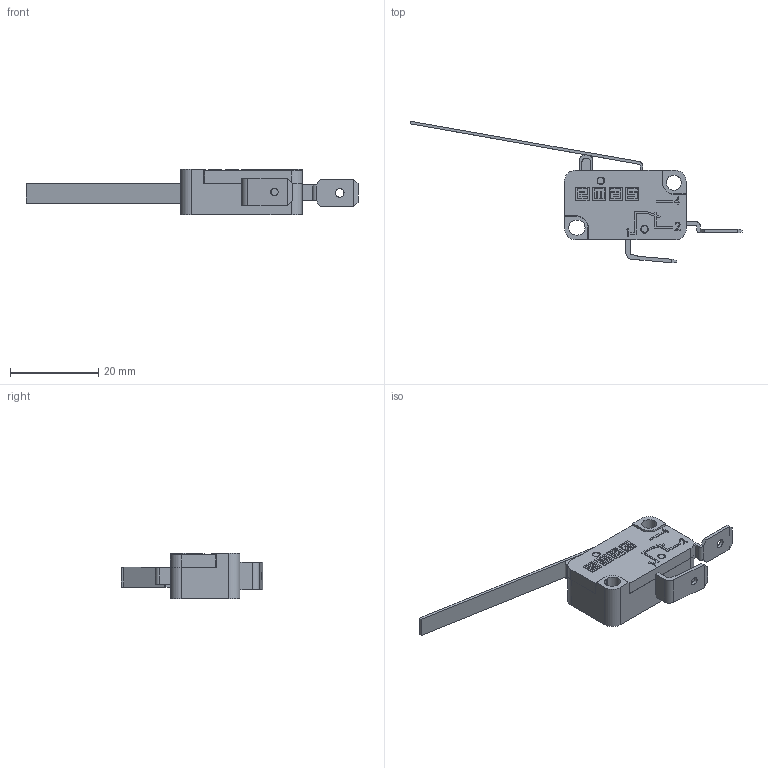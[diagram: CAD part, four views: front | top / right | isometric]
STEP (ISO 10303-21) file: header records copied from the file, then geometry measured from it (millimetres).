
FILE_DESCRIPTION((''),'2; 1');
FILE_NAME('','2026-03-27T16:19:19',(''),(''),'CST STEP Exporter V1.0','Unknown','');
FILE_SCHEMA(('CONFIG_CONTROL_DESIGN'));
Length unit declared in the file: metre
Assembly tree (9 placements, depth 2):
  (unnamed)
    (unnamed)
    (unnamed)
    (unnamed)
    (unnamed)
    (unnamed)
    (unnamed)
    (unnamed)
    (unnamed)
    (unnamed)
Bounding box: 75.44 x 32.15 x 10.4 mm (x, y, z)
Surface area: 7340.1 mm2 (no closed solid volume)
Topology: 0 solids, 9 shells, 255 faces, 971 edges, 730 vertices
Faces by surface type: plane 217, cylinder 32, extrusion 6
Full cylindrical faces by diameter (mm): 1.5 x2, 1.7 x1, 1.75 x2, 1.95 x1, 3.4 x1
Entity records: 12445 total; most frequent: CARTESIAN_POINT 2136, DIRECTION 1593, ORIENTED_EDGE 1554, EDGE_CURVE 962, VECTOR 811, LINE 805, VERTEX_POINT 728, AXIS2_PLACEMENT_3D 391
